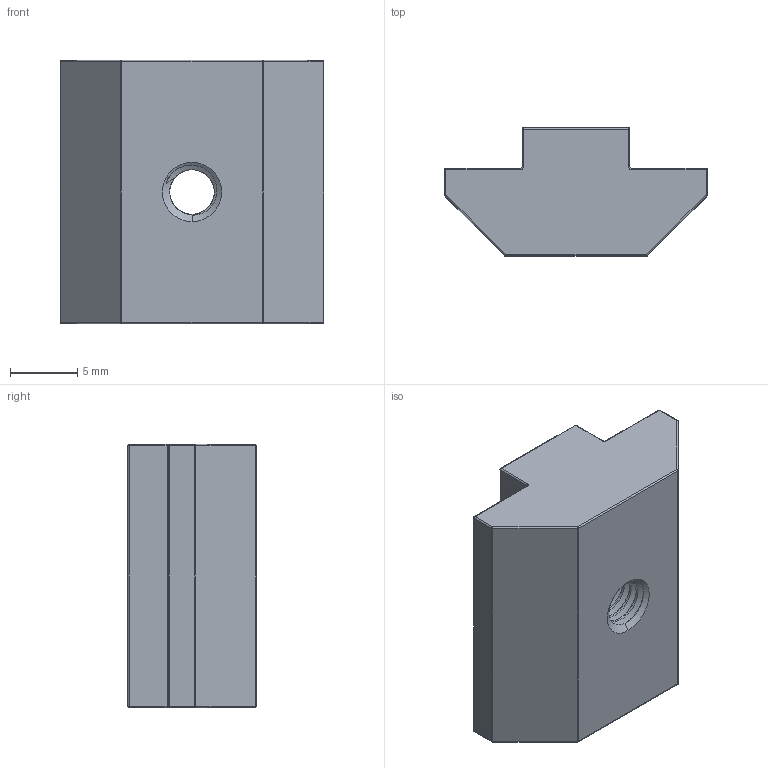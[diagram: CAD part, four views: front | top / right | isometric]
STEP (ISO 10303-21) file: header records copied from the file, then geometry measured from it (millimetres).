
FILE_DESCRIPTION (( 'STEP AP203' ), '1' );
FILE_NAME ('TANLN-AL-40-M4.STEP', '2026-08-25T08:08:13', ( '' ), ( '' ), 'SwSTEP 2.0', 'SolidWorks 2020', '' );
FILE_SCHEMA (( 'CONFIG_CONTROL_DESIGN' ));
Length unit declared in the file: millimetre
Products named in the file (1): TANLN-AL-40-M4
Bounding box: 19.5 x 9.5 x 19.5 mm (x, y, z)
Volume: 2444.3 mm3; surface area: 1427.5 mm2
Topology: 1 solids, 1 shells, 95 faces, 235 edges, 130 vertices
Faces by surface type: cylinder 56, sphere 16, plane 12, cone 4, torus 4, bspline 3
Entity records: 6658 total; most frequent: CARTESIAN_POINT 4535, ORIENTED_EDGE 446, DIRECTION 415, EDGE_CURVE 223, AXIS2_PLACEMENT_3D 163, VERTEX_POINT 130, EDGE_LOOP 97, ADVANCED_FACE 95
